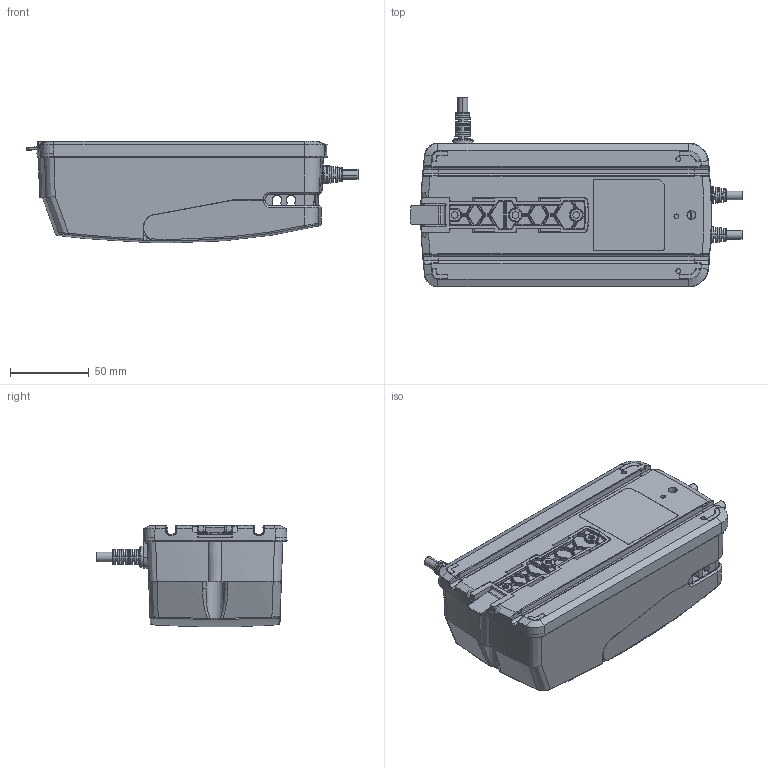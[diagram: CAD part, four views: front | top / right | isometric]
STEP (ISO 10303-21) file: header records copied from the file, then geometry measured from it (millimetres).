
FILE_DESCRIPTION((''),'2;1');
FILE_NAME('1047W4001_ASM','2022-02-24T08:58:31',('ti'),(''),'CREO PARAMETRIC BY PTC INC, 2020454','CREO PARAMETRIC BY PTC INC, 2020454','');
FILE_SCHEMA(('AUTOMOTIVE_DESIGN { 1 0 10303 214 1 1 1 1 }'));
Products named in the file (8): 1047W4001-BP; 1047W4001-LOCK; 1047W4001-CABLE; 1047W4001-BRACKET; SHELL-0273018; SHELL-0273017; SHELL-0273087; 1047W4001_ASM
Assembly tree (9 placements, depth 2):
  1047W4001_ASM
    1047W4001-BP
    1047W4001-LOCK
    1047W4001-CABLE
    1047W4001-BRACKET
    SHELL-0273018  x3
    SHELL-0273017
    SHELL-0273087
Bounding box: 210.33 x 120.37 x 64.49 mm (x, y, z)
Volume: 757979.6 mm3; surface area: 137922.3 mm2
Topology: 9 solids, 13 shells, 5311 faces, 13331 edges, 8150 vertices
Faces by surface type: plane 1761, cylinder 1249, bspline 848, torus 835, cone 425, sphere 124, extrusion 63, revolution 6
Entity records: 188655 total; most frequent: CARTESIAN_POINT 75855, ORIENTED_EDGE 22026, DIRECTION 17889, EDGE_CURVE 11013, AXIS2_PLACEMENT_3D 6788, VERTEX_POINT 6774, EDGE_LOOP 4485, FACE_OUTER_BOUND 4359
